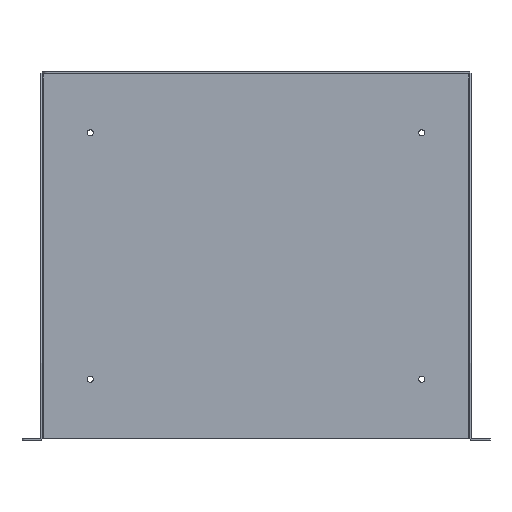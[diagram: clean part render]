
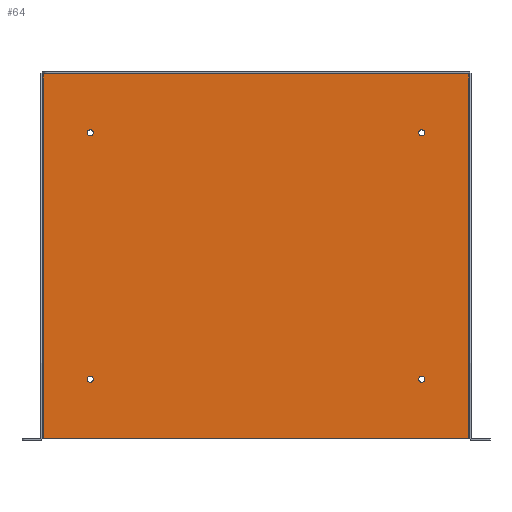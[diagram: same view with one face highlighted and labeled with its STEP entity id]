
A CAD part, top view. The second image highlights one B-rep face of the part: STEP entity #64.
In plain terms, the highlighted planar face has unit normal (0, 0, 1).
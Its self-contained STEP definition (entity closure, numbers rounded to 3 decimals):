
#64 = ADVANCED_FACE( '', ( #187, #188, #189, #190, #191 ), #192, .F. );
#187 = FACE_BOUND( '', #450, .T. );
#188 = FACE_BOUND( '', #451, .T. );
#189 = FACE_BOUND( '', #452, .T. );
#190 = FACE_BOUND( '', #453, .T. );
#191 = FACE_OUTER_BOUND( '', #454, .T. );
#192 = PLANE( '', #455 );
#450 = EDGE_LOOP( '', ( #902 ) );
#451 = EDGE_LOOP( '', ( #903 ) );
#452 = EDGE_LOOP( '', ( #904 ) );
#453 = EDGE_LOOP( '', ( #905 ) );
#454 = EDGE_LOOP( '', ( #906, #907, #908, #909 ) );
#455 = AXIS2_PLACEMENT_3D( '', #910, #911, #912 );
#902 = ORIENTED_EDGE( '', *, *, #1660, .F. );
#903 = ORIENTED_EDGE( '', *, *, #1661, .F. );
#904 = ORIENTED_EDGE( '', *, *, #1662, .F. );
#905 = ORIENTED_EDGE( '', *, *, #1663, .F. );
#906 = ORIENTED_EDGE( '', *, *, #1664, .F. );
#907 = ORIENTED_EDGE( '', *, *, #1665, .T. );
#908 = ORIENTED_EDGE( '', *, *, #1666, .F. );
#909 = ORIENTED_EDGE( '', *, *, #1667, .T. );
#910 = CARTESIAN_POINT( '', ( -222.25, 189.586, 1.829 ) );
#911 = DIRECTION( '', ( 0., 0., -1. ) );
#912 = DIRECTION( '', ( -1., 0., 0. ) );
#1660 = EDGE_CURVE( '', #2006, #2006, #2007, .T. );
#1661 = EDGE_CURVE( '', #2008, #2008, #2009, .T. );
#1662 = EDGE_CURVE( '', #2010, #2010, #2011, .T. );
#1663 = EDGE_CURVE( '', #2012, #2012, #2013, .T. );
#1664 = EDGE_CURVE( '', #1932, #2014, #2015, .T. );
#1665 = EDGE_CURVE( '', #1932, #2016, #2017, .T. );
#1666 = EDGE_CURVE( '', #2018, #2016, #2019, .T. );
#1667 = EDGE_CURVE( '', #2018, #2014, #2020, .T. );
#1932 = VERTEX_POINT( '', #2443 );
#2006 = VERTEX_POINT( '', #2571 );
#2007 = CIRCLE( '', #2572, 3.175 );
#2008 = VERTEX_POINT( '', #2573 );
#2009 = CIRCLE( '', #2574, 3.175 );
#2010 = VERTEX_POINT( '', #2575 );
#2011 = CIRCLE( '', #2576, 3.175 );
#2012 = VERTEX_POINT( '', #2577 );
#2013 = CIRCLE( '', #2578, 3.175 );
#2014 = VERTEX_POINT( '', #2579 );
#2015 = LINE( '', #2580, #2581 );
#2016 = VERTEX_POINT( '', #2582 );
#2017 = LINE( '', #2583, #2584 );
#2018 = VERTEX_POINT( '', #2585 );
#2019 = LINE( '', #2586, #2587 );
#2020 = LINE( '', #2588, #2589 );
#2443 = CARTESIAN_POINT( '', ( 219.507, 186.842, 1.829 ) );
#2571 = CARTESIAN_POINT( '', ( -167.869, 126.086, 1.829 ) );
#2572 = AXIS2_PLACEMENT_3D( '', #3190, #3191, #3192 );
#2573 = CARTESIAN_POINT( '', ( 174.219, -127.914, 1.829 ) );
#2574 = AXIS2_PLACEMENT_3D( '', #3193, #3194, #3195 );
#2575 = CARTESIAN_POINT( '', ( 174.219, 126.086, 1.829 ) );
#2576 = AXIS2_PLACEMENT_3D( '', #3196, #3197, #3198 );
#2577 = CARTESIAN_POINT( '', ( -167.869, -127.914, 1.829 ) );
#2578 = AXIS2_PLACEMENT_3D( '', #3199, #3200, #3201 );
#2579 = CARTESIAN_POINT( '', ( 219.507, -189.586, 1.829 ) );
#2580 = CARTESIAN_POINT( '', ( 219.507, 189.586, 1.829 ) );
#2581 = VECTOR( '', #3202, 1000. );
#2582 = CARTESIAN_POINT( '', ( -219.507, 186.842, 1.829 ) );
#2583 = CARTESIAN_POINT( '', ( -219.505, 186.842, 1.829 ) );
#2584 = VECTOR( '', #3203, 1000. );
#2585 = CARTESIAN_POINT( '', ( -219.507, -189.586, 1.829 ) );
#2586 = CARTESIAN_POINT( '', ( -219.507, -189.586, 1.829 ) );
#2587 = VECTOR( '', #3204, 1000. );
#2588 = CARTESIAN_POINT( '', ( -222.25, -189.586, 1.829 ) );
#2589 = VECTOR( '', #3205, 1000. );
#3190 = CARTESIAN_POINT( '', ( -171.044, 126.086, 1.829 ) );
#3191 = DIRECTION( '', ( 0., 0., 1. ) );
#3192 = DIRECTION( '', ( 1., 0., 0. ) );
#3193 = CARTESIAN_POINT( '', ( 171.044, -127.914, 1.829 ) );
#3194 = DIRECTION( '', ( 0., 0., 1. ) );
#3195 = DIRECTION( '', ( 1., 0., 0. ) );
#3196 = CARTESIAN_POINT( '', ( 171.044, 126.086, 1.829 ) );
#3197 = DIRECTION( '', ( 0., 0., 1. ) );
#3198 = DIRECTION( '', ( 1., 0., 0. ) );
#3199 = CARTESIAN_POINT( '', ( -171.044, -127.914, 1.829 ) );
#3200 = DIRECTION( '', ( 0., 0., 1. ) );
#3201 = DIRECTION( '', ( 1., 0., 0. ) );
#3202 = DIRECTION( '', ( 0., -1., 0. ) );
#3203 = DIRECTION( '', ( -1., 0., 0. ) );
#3204 = DIRECTION( '', ( 0., 1., 0. ) );
#3205 = DIRECTION( '', ( 1., 0., 0. ) );
